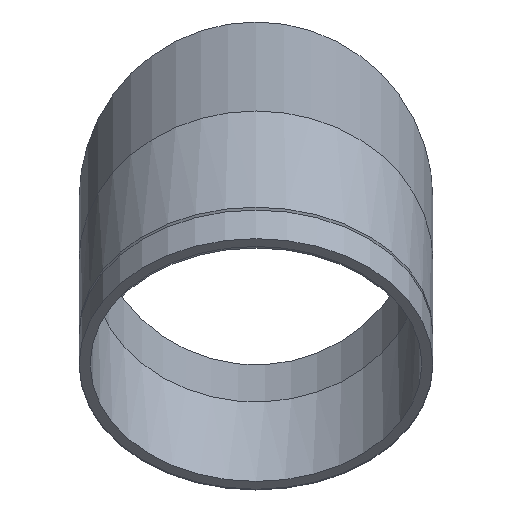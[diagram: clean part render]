
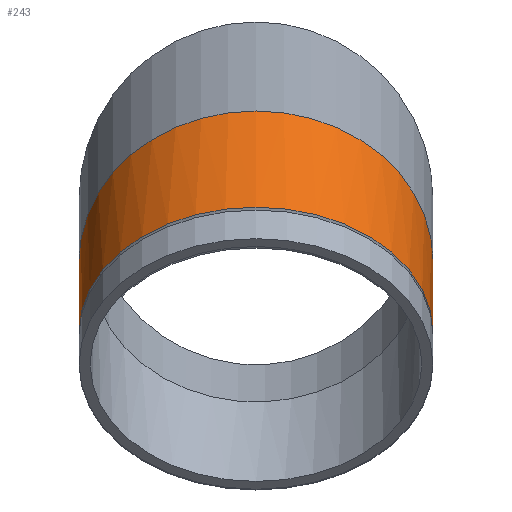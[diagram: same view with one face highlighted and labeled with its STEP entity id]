
A CAD part, top view. The second image highlights one B-rep face of the part: STEP entity #243.
In plain terms, the highlighted cylindrical face has radius 125 mm (diameter 250 mm), a full revolution.
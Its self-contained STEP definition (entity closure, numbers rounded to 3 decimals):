
#21=ELLIPSE($,#281,127.449,125.);
#22=ELLIPSE($,#282,127.449,125.);
#36=CYLINDRICAL_SURFACE($,#280,125.);
#54=FACE_BOUND($,#100,.T.);
#72=FACE_OUTER_BOUND($,#99,.T.);
#99=EDGE_LOOP($,(#200));
#100=EDGE_LOOP($,(#201,#202));
#120=CIRCLE($,#270,125.);
#134=VERTEX_POINT($,#414);
#141=VERTEX_POINT($,#432);
#142=VERTEX_POINT($,#433);
#160=EDGE_CURVE($,#134,#134,#120,.T.);
#167=EDGE_CURVE($,#141,#142,#21,.T.);
#168=EDGE_CURVE($,#142,#141,#22,.T.);
#200=ORIENTED_EDGE($,*,*,#160,.T.);
#201=ORIENTED_EDGE($,*,*,#167,.F.);
#202=ORIENTED_EDGE($,*,*,#168,.F.);
#243=ADVANCED_FACE($,(#72,#54),#36,.T.);
#270=AXIS2_PLACEMENT_3D($,#415,#332,#333);
#280=AXIS2_PLACEMENT_3D($,#431,#352,#353);
#281=AXIS2_PLACEMENT_3D($,#434,#354,#355);
#282=AXIS2_PLACEMENT_3D($,#435,#356,#357);
#332=DIRECTION('center_axis',(0.,0.707,
-0.707));
#333=DIRECTION('ref_axis',(1.,0.,0.));
#352=DIRECTION('center_axis',(0.,0.707,
-0.707));
#353=DIRECTION('ref_axis',(1.,0.,0.));
#354=DIRECTION('center_axis',(0.,0.556,
-0.831));
#355=DIRECTION('ref_axis',(0.,-0.831,-0.556));
#356=DIRECTION('center_axis',(0.,0.556,
-0.831));
#357=DIRECTION('ref_axis',(0.,-0.831,-0.556));
#414=CARTESIAN_POINT('',(0.,-6.238,303.035));
#415=CARTESIAN_POINT('Origin',(0.,-94.626,
214.647));
#431=CARTESIAN_POINT('Origin',(0.,-116.86,
236.881));
#432=CARTESIAN_POINT('',(-125.,-44.113,164.133));
#433=CARTESIAN_POINT('',(125.,-44.113,164.133));
#434=CARTESIAN_POINT('Origin',(0.,-44.113,
164.133));
#435=CARTESIAN_POINT('Origin',(0.,-44.113,
164.133));
